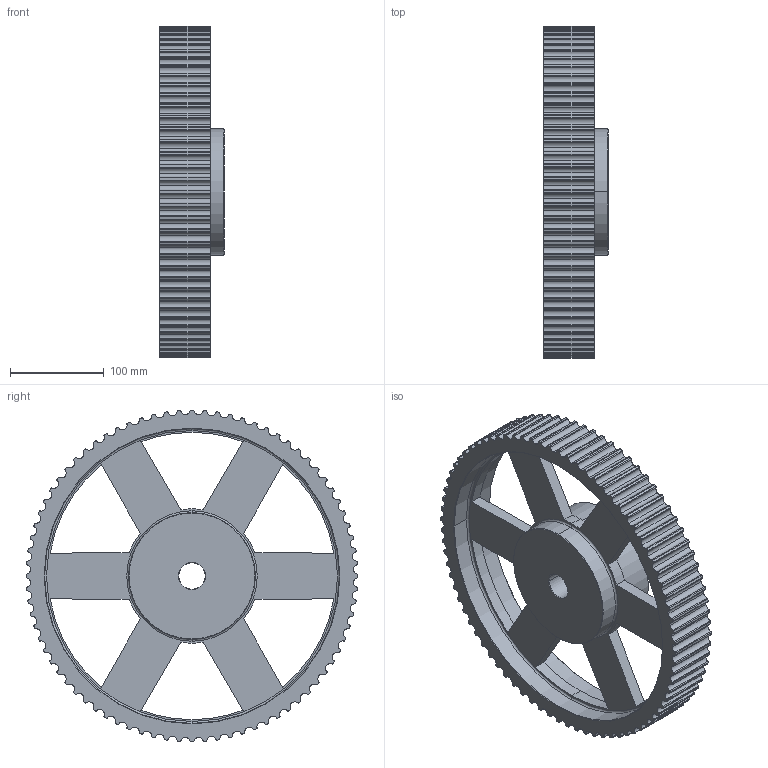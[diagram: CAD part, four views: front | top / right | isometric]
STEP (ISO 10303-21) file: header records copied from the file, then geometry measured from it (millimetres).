
FILE_DESCRIPTION(('STEP AP203'),'1');
FILE_NAME('80_-_14_m_40.stp','2021-01-25T15:35:27',('TraceParts'),('TraceParts S.A.'),'Spatial InterOp 3D',' ',' ');
FILE_SCHEMA(('CONFIG_CONTROL_DESIGN'));
Length unit declared in the file: millimetre
Products named in the file (1): 1
Bounding box: 69 x 353.71 x 353.71 mm (x, y, z)
Volume: 2281206.2 mm3; surface area: 293301.5 mm2
Topology: 1 solids, 1 shells, 464 faces, 1362 edges, 904 vertices
Faces by surface type: cylinder 426, plane 18, cone 12, torus 8
Entity records: 16030 total; most frequent: DIRECTION 3180, CARTESIAN_POINT 2731, ORIENTED_EDGE 2724, EDGE_CURVE 1362, AXIS2_PLACEMENT_3D 1353, VERTEX_POINT 904, CIRCLE 888, EDGE_LOOP 482
